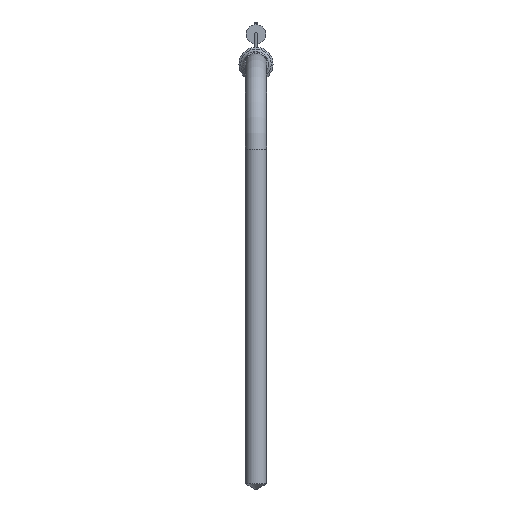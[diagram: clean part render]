
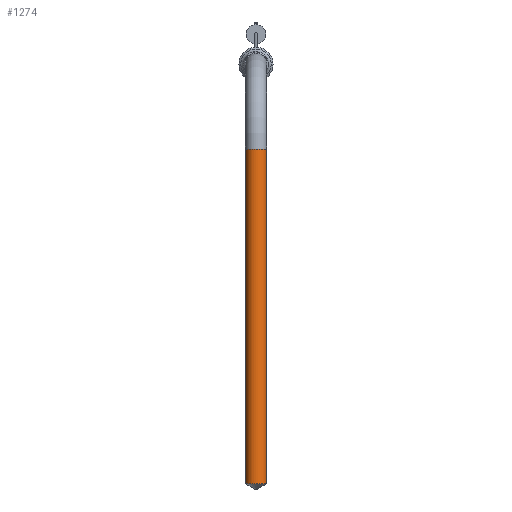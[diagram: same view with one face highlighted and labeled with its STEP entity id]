
A CAD part, top view. The second image highlights one B-rep face of the part: STEP entity #1274.
In plain terms, the highlighted cylindrical face has radius 2.5 mm (diameter 5 mm), a full revolution.
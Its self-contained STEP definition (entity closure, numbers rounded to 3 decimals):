
#232 = AXIS2_PLACEMENT_3D ( 'NONE', #1814, #292, #1292 ) ;
#272 = CIRCLE ( 'NONE', #232, 2.5 ) ;
#292 = DIRECTION ( 'NONE',  ( 0., -1., 0. ) ) ;
#464 = EDGE_LOOP ( 'NONE', ( #782 ) ) ;
#529 = CYLINDRICAL_SURFACE ( 'NONE', #1944, 2.5 ) ;
#705 = CARTESIAN_POINT ( 'NONE',  ( 0., -20., 29. ) ) ;
#709 = CIRCLE ( 'NONE', #1849, 2.5 ) ;
#720 = DIRECTION ( 'NONE',  ( 0., 0., 1. ) ) ;
#782 = ORIENTED_EDGE ( 'NONE', *, *, #1315, .T. ) ;
#914 = FACE_OUTER_BOUND ( 'NONE', #464, .T. ) ;
#1038 = EDGE_CURVE ( 'NONE', #1225, #1225, #272, .T. ) ;
#1063 = DIRECTION ( 'NONE',  ( 0., 0., 1. ) ) ;
#1071 = VERTEX_POINT ( 'NONE', #2101 ) ;
#1225 = VERTEX_POINT ( 'NONE', #1911 ) ;
#1227 = CARTESIAN_POINT ( 'NONE',  ( 0., -98.557, 29. ) ) ;
#1274 = ADVANCED_FACE ( 'NONE', ( #914, #2069 ), #529, .T. ) ;
#1292 = DIRECTION ( 'NONE',  ( -1., 0., 0. ) ) ;
#1315 = EDGE_CURVE ( 'NONE', #1071, #1071, #709, .T. ) ;
#1585 = DIRECTION ( 'NONE',  ( 0., -1., 0. ) ) ;
#1613 = ORIENTED_EDGE ( 'NONE', *, *, #1038, .T. ) ;
#1737 = DIRECTION ( 'NONE',  ( 0., 1., 0. ) ) ;
#1814 = CARTESIAN_POINT ( 'NONE',  ( 0., -20., 29. ) ) ;
#1849 = AXIS2_PLACEMENT_3D ( 'NONE', #1227, #1737, #720 ) ;
#1911 = CARTESIAN_POINT ( 'NONE',  ( -2.5, -20., 29. ) ) ;
#1944 = AXIS2_PLACEMENT_3D ( 'NONE', #705, #1585, #1063 ) ;
#2069 = FACE_OUTER_BOUND ( 'NONE', #2167, .T. ) ;
#2101 = CARTESIAN_POINT ( 'NONE',  ( 0., -98.557, 31.5 ) ) ;
#2167 = EDGE_LOOP ( 'NONE', ( #1613 ) ) ;
